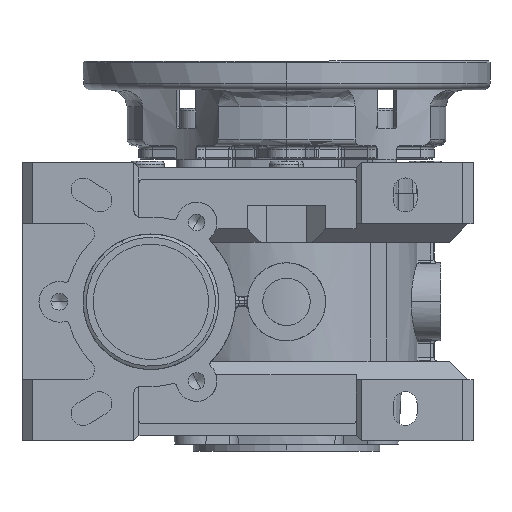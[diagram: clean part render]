
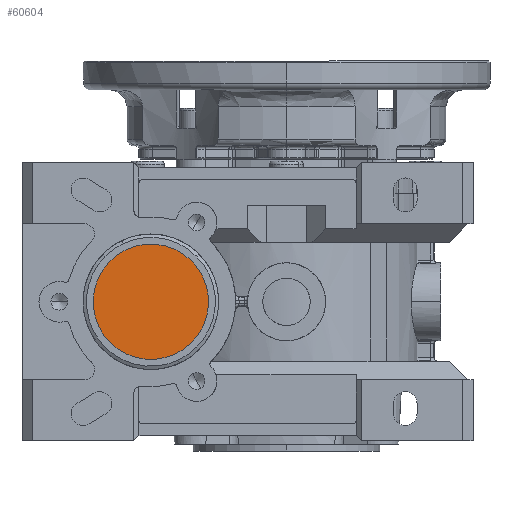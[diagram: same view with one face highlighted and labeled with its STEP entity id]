
A CAD part, left-side view. The second image highlights one B-rep face of the part: STEP entity #60604.
In plain terms, the highlighted planar face has unit normal (-1, 0, 0) as drawn and (0, 0, -1) by its records, which use the part's own axes.
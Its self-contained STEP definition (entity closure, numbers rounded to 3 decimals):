
#60116=CARTESIAN_POINT('',(5.348,4.007,0.5));
#60117=VERTEX_POINT('',#60116);
#60126=CARTESIAN_POINT('',(-28.652,4.007,0.5));
#60127=VERTEX_POINT('',#60126);
#60128=CARTESIAN_POINT('',(-11.652,4.007,0.5));
#60129=DIRECTION('',(0.0,0.0,-1.0));
#60130=DIRECTION('',(1.0,0.0,0.0));
#60131=AXIS2_PLACEMENT_3D('',#60128,#60129,#60130);
#60132=CIRCLE('',#60131,17.0);
#60133=EDGE_CURVE('',#60127,#60117,#60132,.T.);
#60585=CARTESIAN_POINT('',(-11.652,4.007,0.5));
#60586=DIRECTION('',(0.0,0.0,-1.0));
#60587=DIRECTION('',(1.0,0.0,0.0));
#60588=AXIS2_PLACEMENT_3D('',#60585,#60586,#60587);
#60589=CIRCLE('',#60588,17.0);
#60590=EDGE_CURVE('',#60117,#60127,#60589,.T.);
#60595=CARTESIAN_POINT('',(-11.652,4.007,0.5));
#60596=DIRECTION('',(0.0,0.0,1.0));
#60597=DIRECTION('',(1.0,0.0,0.0));
#60598=AXIS2_PLACEMENT_3D('',#60595,#60596,#60597);
#60599=PLANE('',#60598);
#60600=ORIENTED_EDGE('',*,*,#60133,.T.);
#60601=ORIENTED_EDGE('',*,*,#60590,.T.);
#60602=EDGE_LOOP('',(#60600,#60601));
#60603=FACE_OUTER_BOUND('',#60602,.T.);
#60604=ADVANCED_FACE('',(#60603),#60599,.F.);
